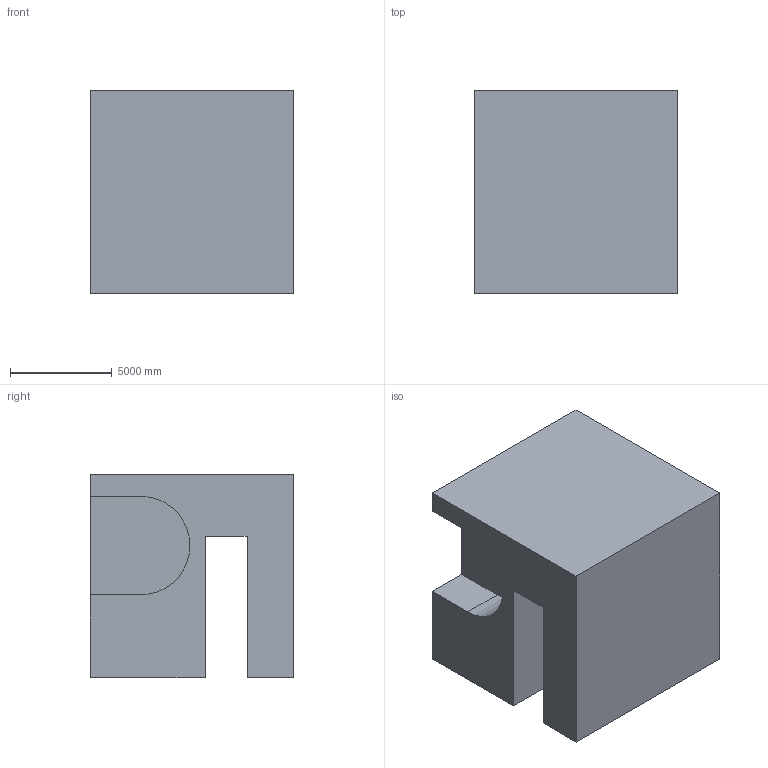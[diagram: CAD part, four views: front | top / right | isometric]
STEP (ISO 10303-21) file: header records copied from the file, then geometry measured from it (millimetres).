
FILE_DESCRIPTION (( 'STEP AP203' ), '1' );
FILE_NAME ('1006.STEP', '2022-08-18T12:23:47', ( 'user' ), ( '' ), 'SwSTEP 2.0', 'SolidWorks 2021', '' );
FILE_SCHEMA (( 'CONFIG_CONTROL_DESIGN' ));
Length unit declared in the file: centimetre
Products named in the file (1): 1006
Bounding box: 10000 x 10000 x 10000 mm (x, y, z)
Volume: 813531671523.5 mm3; surface area: 726351971.4 mm2
Topology: 1 solids, 1 shells, 14 faces, 36 edges, 24 vertices
Faces by surface type: plane 13, cylinder 1
Entity records: 499 total; most frequent: CARTESIAN_POINT 75, ORIENTED_EDGE 72, DIRECTION 68, EDGE_CURVE 36, LINE 34, VECTOR 34, VERTEX_POINT 24, AXIS2_PLACEMENT_3D 17
